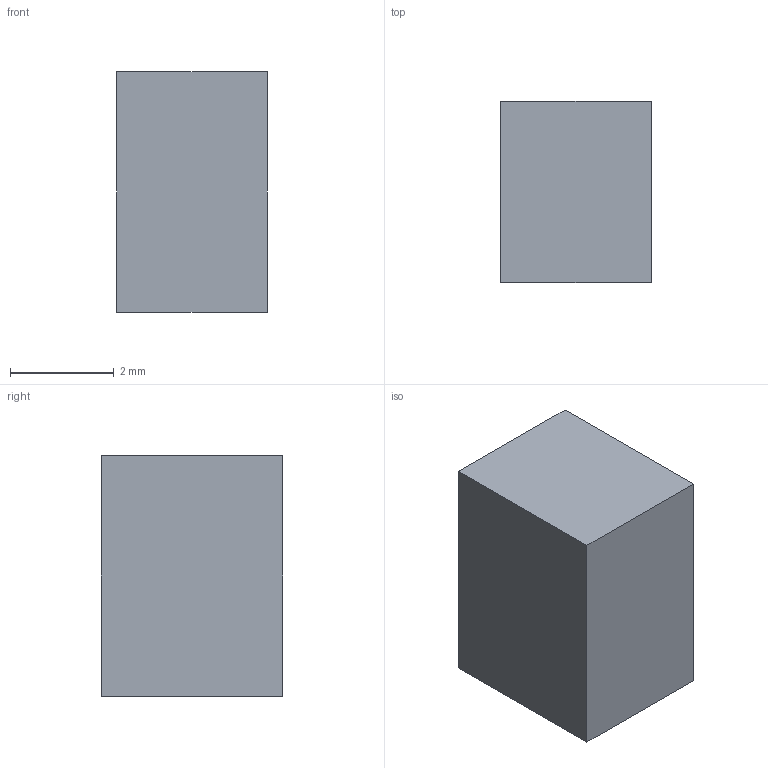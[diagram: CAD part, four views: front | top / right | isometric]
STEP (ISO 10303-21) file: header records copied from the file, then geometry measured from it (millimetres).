
FILE_DESCRIPTION(('Open CASCADE Model'),'2;1');
FILE_NAME('Open CASCADE Shape Model','2026-08-18T10:55:12',('Author'),( 'Open CASCADE'),'Open CASCADE STEP processor 7.9','Open CASCADE 7.9' ,'Unknown');
FILE_SCHEMA(('AUTOMOTIVE_DESIGN { 1 0 10303 214 1 1 1 1 }'));
Length unit declared in the file: millimetre
Products named in the file (1): power_button
Bounding box: 2.9 x 3.5 x 4.65 mm (x, y, z)
Volume: 47.2 mm3; surface area: 79.8 mm2
Topology: 1 solids, 1 shells, 6 faces, 12 edges, 8 vertices
Faces by surface type: plane 6
Entity records: 322 total; most frequent: CARTESIAN_POINT 51, DIRECTION 50, LINE 36, VECTOR 36, ORIENTED_EDGE 24, PCURVE 24, DEFINITIONAL_REPRESENTATION 24, EDGE_CURVE 12
